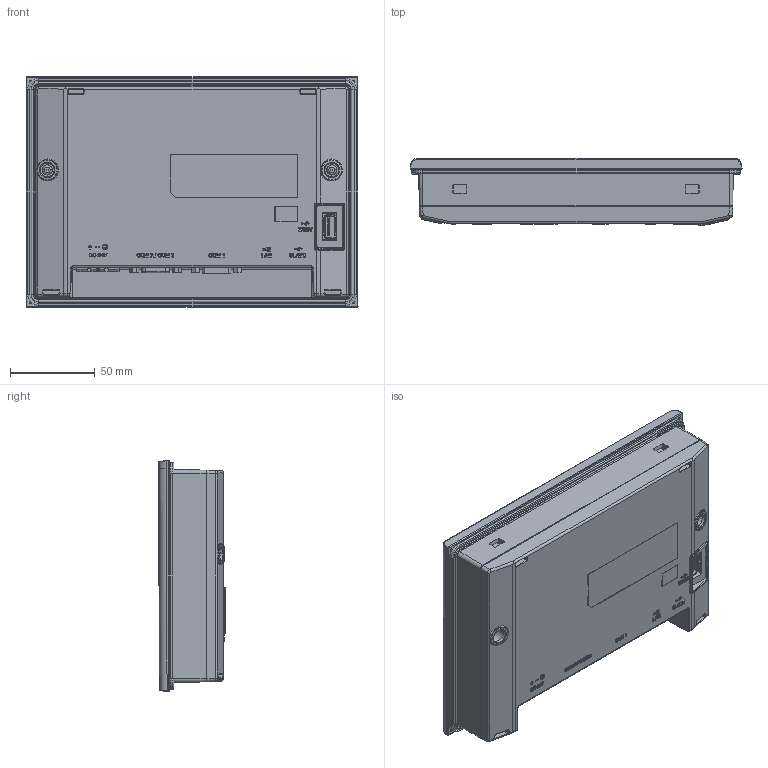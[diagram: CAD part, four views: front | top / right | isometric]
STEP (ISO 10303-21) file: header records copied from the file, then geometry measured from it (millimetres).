
FILE_DESCRIPTION((''),'2;1');
FILE_NAME('DOP-107WV_ASM_ASM','2016-05-24T',('YY.CHENG'),(''),'PRO/ENGINEER BY PARAMETRIC TECHNOLOGY CORPORATION, 2015200','PRO/ENGINEER BY PARAMETRIC TECHNOLOGY CORPORATION, 2015200','');
FILE_SCHEMA(('CONFIG_CONTROL_DESIGN'));
Products named in the file (2): _DOP-107WV_ASM; DOP-107WV_ASM_ASM
Assembly tree (1 placements, depth 2):
  DOP-107WV_ASM_ASM
    _DOP-107WV_ASM
Bounding box: 195.96 x 39.57 x 135.96 mm (x, y, z)
Surface area: 205719.2 mm2 (no closed solid volume)
Topology: 0 solids, 10 shells, 3995 faces, 10673 edges, 6705 vertices
Faces by surface type: plane 2630, cylinder 884, bspline 176, extrusion 104, cone 98, torus 71, sphere 32
Entity records: 151517 total; most frequent: CARTESIAN_POINT 54860, ORIENTED_EDGE 21290, DIRECTION 17948, EDGE_CURVE 10645, VECTOR 7812, LINE 7708, VERTEX_POINT 6703, AXIS2_PLACEMENT_3D 5068
